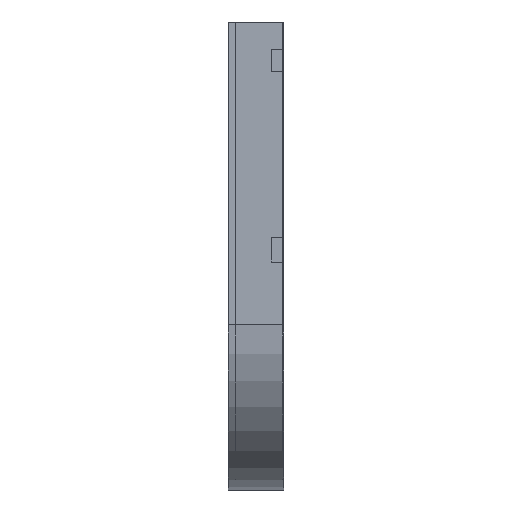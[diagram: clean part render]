
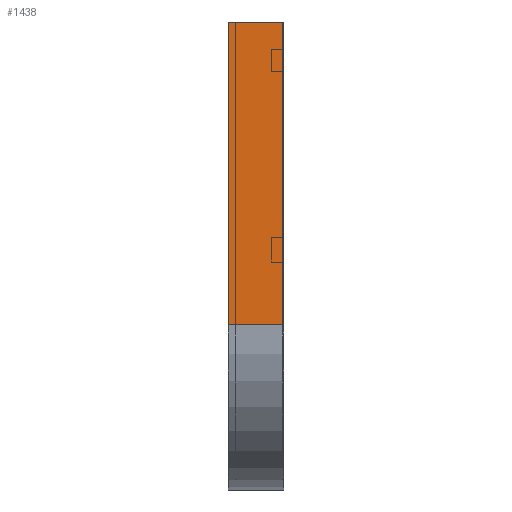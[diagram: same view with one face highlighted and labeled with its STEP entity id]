
A CAD part, left-side view. The second image highlights one B-rep face of the part: STEP entity #1438.
In plain terms, the highlighted planar face has unit normal (-1, 0, 0).
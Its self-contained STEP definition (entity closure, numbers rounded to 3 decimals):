
#40 = EDGE_CURVE ( 'NONE', #460, #381, #461, .T. ) ;
#93 = CARTESIAN_POINT ( 'NONE',  ( 0., 100., -550. ) ) ;
#253 = ORIENTED_EDGE ( 'NONE', *, *, #961, .F. ) ;
#256 = DIRECTION ( 'NONE',  ( 0., 0., -1. ) ) ;
#306 = ORIENTED_EDGE ( 'NONE', *, *, #1536, .T. ) ;
#324 = CARTESIAN_POINT ( 'NONE',  ( 0., 0., 0. ) ) ;
#374 = CARTESIAN_POINT ( 'NONE',  ( 0., 0., -550. ) ) ;
#381 = VERTEX_POINT ( 'NONE', #93 ) ;
#432 = LINE ( 'NONE', #450, #464 ) ;
#450 = CARTESIAN_POINT ( 'NONE',  ( 0., 0., 0. ) ) ;
#460 = VERTEX_POINT ( 'NONE', #1150 ) ;
#461 = LINE ( 'NONE', #1407, #1434 ) ;
#464 = VECTOR ( 'NONE', #1557, 1000. ) ;
#546 = VERTEX_POINT ( 'NONE', #324 ) ;
#567 = CARTESIAN_POINT ( 'NONE',  ( 0., 0., 0. ) ) ;
#709 = PLANE ( 'NONE',  #1749 ) ;
#710 = EDGE_CURVE ( 'NONE', #546, #2006, #432, .T. ) ;
#961 = EDGE_CURVE ( 'NONE', #460, #546, #1016, .T. ) ;
#1014 = LINE ( 'NONE', #1538, #1496 ) ;
#1016 = LINE ( 'NONE', #1035, #1167 ) ;
#1035 = CARTESIAN_POINT ( 'NONE',  ( 0., 0., 0. ) ) ;
#1048 = EDGE_LOOP ( 'NONE', ( #1480, #253, #1542, #306 ) ) ;
#1150 = CARTESIAN_POINT ( 'NONE',  ( 0., 100., 0. ) ) ;
#1167 = VECTOR ( 'NONE', #1656, 1000. ) ;
#1386 = DIRECTION ( 'NONE',  ( 1., 0., 0. ) ) ;
#1398 = FACE_OUTER_BOUND ( 'NONE', #1048, .T. ) ;
#1407 = CARTESIAN_POINT ( 'NONE',  ( 0., 100., 0. ) ) ;
#1434 = VECTOR ( 'NONE', #1736, 1000. ) ;
#1438 = ADVANCED_FACE ( 'NONE', ( #1398 ), #709, .F. ) ;
#1480 = ORIENTED_EDGE ( 'NONE', *, *, #710, .F. ) ;
#1496 = VECTOR ( 'NONE', #1654, 1000. ) ;
#1536 = EDGE_CURVE ( 'NONE', #381, #2006, #1014, .T. ) ;
#1538 = CARTESIAN_POINT ( 'NONE',  ( 0., 0., -550. ) ) ;
#1542 = ORIENTED_EDGE ( 'NONE', *, *, #40, .T. ) ;
#1557 = DIRECTION ( 'NONE',  ( 0., 0., -1. ) ) ;
#1654 = DIRECTION ( 'NONE',  ( 0., -1., 0. ) ) ;
#1656 = DIRECTION ( 'NONE',  ( 0., -1., 0. ) ) ;
#1736 = DIRECTION ( 'NONE',  ( 0., 0., -1. ) ) ;
#1749 = AXIS2_PLACEMENT_3D ( 'NONE', #567, #1386, #256 ) ;
#2006 = VERTEX_POINT ( 'NONE', #374 ) ;
